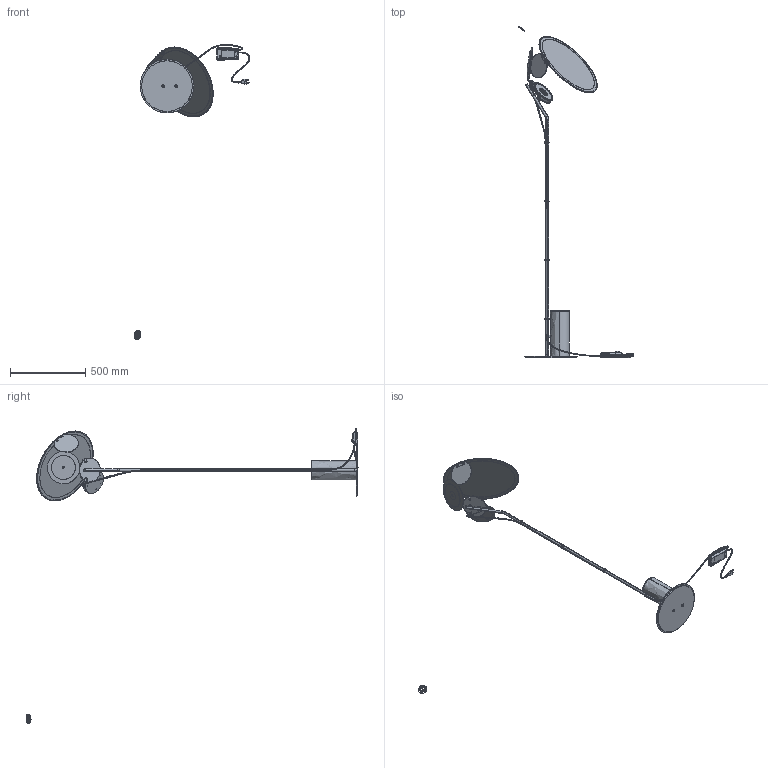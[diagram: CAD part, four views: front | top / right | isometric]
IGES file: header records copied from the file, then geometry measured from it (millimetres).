
Start section: SolidWorks IGES file using analytic representation for surfaces
Global section: file name: D:\OneDrive\Projects\AXO067 CUT II\DRAW\3D\STEP-IGES\CUT-FLOOR_2.IGS; native system: SolidWorks 2019; preprocessor: SolidWorks 2019; author: tecnico8; date: 190725.160302; units: millimetre
Bounding box: 765.31 x 2199.22 x 1955.09 mm (x, y, z)
Surface area: 1891080.4 mm2 (no closed solid volume)
Topology: 0 solids, 0 shells, 2113 faces, 23125 edges, 23080 vertices
Faces by surface type: bspline 1294, revolution 819
